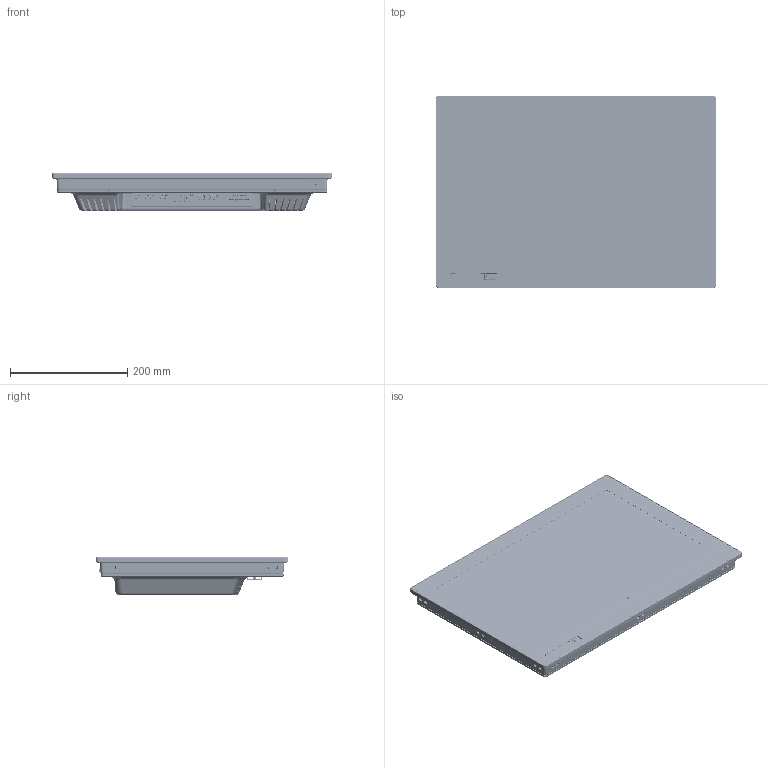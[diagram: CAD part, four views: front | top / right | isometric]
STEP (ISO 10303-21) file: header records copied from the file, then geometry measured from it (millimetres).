
FILE_DESCRIPTION((''),'2;1');
FILE_NAME('2D-MDP_1950WD_ASM','2023-01-03T15:17:14',('BCKIM'),(''),'CREO PARAMETRIC BY PTC INC, 2020454','CREO PARAMETRIC BY PTC INC, 2020454','');
FILE_SCHEMA(('CONFIG_CONTROL_DESIGN'));
Products named in the file (59): FRONT_BEZEL-RT1951WD; 28R1418-000; GASKET-RT1951WD_BASE; FR_HOST_COVER-LOCK; LOCKING_KEY; HOST_COVER_PACKING; FR_HOST_COVER-GUIDE; USB_COVER_SPRING; FR_HOST_COVER-HINGE_V2; FR_HOST_USB_COVER_V2; USB_COVER_HINGE_PIN_V2; ISO7045-M3X5-4_8; FR_HOST_USB_COVER_ASSY_ASM; FRONT_HOST_USB_PCB; MINI_USB-HW-MU-5F-20; USB_A_482580002_MOLEX; TF31-12S-0_5SH-148290_PRT_PRT; FRONT_HOST_USB_PCB_ASSY_ASM; HOST_USB_PCB-SUPPORT_RTW; PCB-CAPACITIVE_KEY; 533980471; LED_CHIP_VLMG13; CONDUCTIVE_GASKET-KEY; CONDUCTIVE_GASKET-KEY_LED; PCB_KEY-CAPACITIVE_MODULE_ASM; SUPPORT-TOPRT-WD_MONITOR; KEY-CAPACITIVE_MODULE_ASM; LOWER_COVER_MONITOR_19; TAPE-LOWER_COVER_MONITOR_19; LOWER_COVER_MONITOR_19_ASM; LCD_HD-G185BGE-L010001; WIFI_ANTENNA_RC; BL_ANTENNA_RC; PCB-SUB_RT1951WD_NL192108AC21; 512966094; 734120110; 532610671; PCB-SUB_RT1951WD_NL192108AC21_ASM; FFC_01-185W; FFC_02-185W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
Assembly tree (94 placements, depth 5):
  2D-MDP_1950WD_ASM
    FRONT_BEZEL-RT1951WD
    28R1418-000  x2
    GASKET-RT1951WD_BASE
    FR_HOST_USB_COVER_ASSY_ASM
      FR_HOST_COVER-LOCK
      LOCKING_KEY
      HOST_COVER_PACKING
      FR_HOST_COVER-GUIDE
      USB_COVER_SPRING
      FR_HOST_COVER-HINGE_V2
      FR_HOST_USB_COVER_V2
      USB_COVER_HINGE_PIN_V2
      ISO7045-M3X5-4_8
    FRONT_HOST_USB_PCB_ASSY_ASM
      FRONT_HOST_USB_PCB
      MINI_USB-HW-MU-5F-20
      USB_A_482580002_MOLEX
      TF31-12S-0_5SH-148290_PRT_PRT
    HOST_USB_PCB-SUPPORT_RTW
    ISO7045-M3X5-4_8  x22
    KEY-CAPACITIVE_MODULE_ASM
      PCB_KEY-CAPACITIVE_MODULE_ASM
        PCB-CAPACITIVE_KEY
        533980471
        LED_CHIP_VLMG13  x2
        CONDUCTIVE_GASKET-KEY  x3
        CONDUCTIVE_GASKET-KEY_LED  x2
      SUPPORT-TOPRT-WD_MONITOR
    LOWER_COVER_MONITOR_19_ASM
      LOWER_COVER_MONITOR_19
      TAPE-LOWER_COVER_MONITOR_19
    TOUCH_LCD_SUB_1950WD-CAPACITIVE_ASM
      LCD_SUB_RT1950WD_CAPACITIVE_ASM
        LCD_HD-G185BGE-L010001
        WIFI_ANTENNA_RC
        BL_ANTENNA_RC
        PCB-SUB_RT1951WD_NL192108AC21_ASM
          PCB-SUB_RT1951WD_NL192108AC21
          512966094
          734120110  x2
          532610671
        FFC_01-185W
        FFC_02-185W
      TOUCH-1951WD
    PCB_MONITOR_TOTAL_ASSY_ASM
      PCB_MONITOR_ASSY_ASM
        PCB_MONITOR_
        USB-A_676433910  x2
        PINHEAD-SK2542-SR-NA
        HDMI_471510001  x2
        670689000  x2
        512966094  x2
        TF31-12S-0_5SH-148290_PRT_PRT
        532610471
        533980471
        SMAW200-04
        734120110
      CONNECTOR_GUIDE-MDP
    SMPS_TOPRTWD_ASSY_ASM
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Bounding box: 477.4 x 328.4 x 63.5 mm (x, y, z)
Volume: 1712180 mm3; surface area: 1508707 mm2
Topology: 95 solids, 97 shells, 23893 faces, 69796 edges, 45311 vertices
Faces by surface type: plane 18273, cylinder 3831, cone 840, bspline 652, torus 192, sphere 99, extrusion 6
Entity records: 538233 total; most frequent: CARTESIAN_POINT 149493, ORIENTED_EDGE 85564, DIRECTION 73987, EDGE_CURVE 42782, VECTOR 33445, LINE 33439, VERTEX_POINT 27733, AXIS2_PLACEMENT_3D 20271
